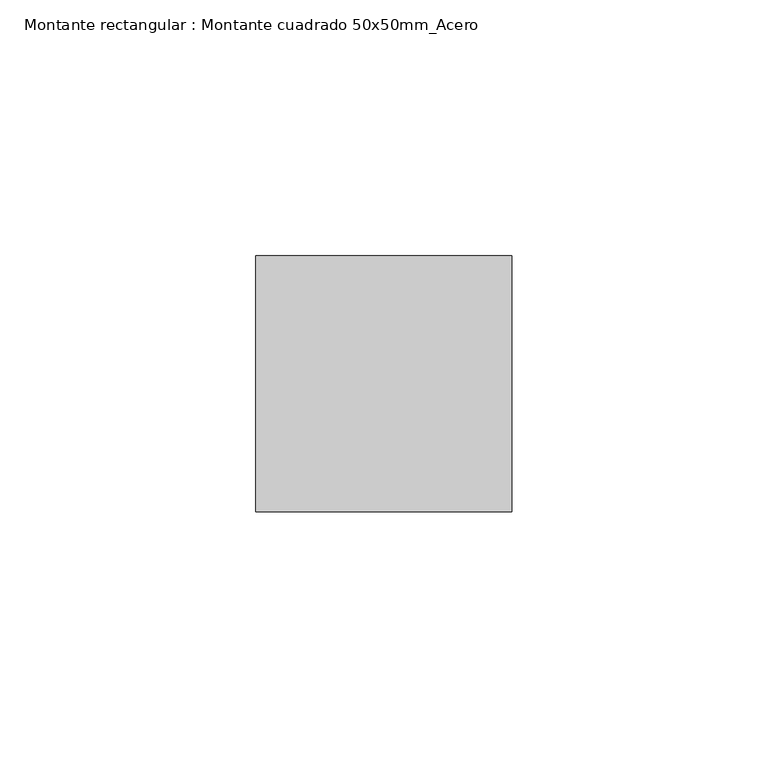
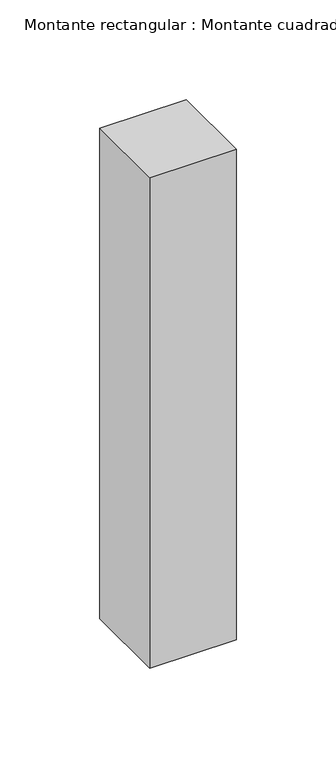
"""IFC4 building model written with IfcOpenShell, lengths in millimetres: member geometry, Montante rectangular : Montante cuadrado 50x50mm_Acero."""

import ifcopenshell
import ifcopenshell.guid

model = None  # the IFC model being written
_history = None  # IfcOwnerHistory: only IFC2X3 demands one
_inside = {}  # id of a spatial element -> (the spatial element, [elements in it])
_under = {}  # id of a project, library or spatial element -> (it, [spatial elements below it])
_declared = {}  # id of a project -> (the project, [libraries it declares])
_typed = {}  # id of a type object -> (the type object, [elements of that type])
_made_of = {}  # id of a material, layer set ... -> (it, [elements and type objects made of it])


def new_model(schema):
    """Start an empty IFC model of exactly this schema.

    Asked for "IFC4X3", IfcOpenShell would pick the latest addendum, in which some entities
    have other attributes; the version numbers below select the first issue.
    IFC2X3 requires an IfcOwnerHistory on every rooted entity: one is made here for all.
    """
    global model, _history
    if schema == "IFC4X3":
        model = ifcopenshell.file(schema_version=(4, 3, 0, 0))
    else:
        model = ifcopenshell.file(schema=schema)
    _inside.clear()
    _under.clear()
    _declared.clear()
    _typed.clear()
    _made_of.clear()
    _history = None
    if model.schema == "IFC2X3":
        org = make("IfcOrganization", Name="unknown")
        user = make(
            "IfcPersonAndOrganization",
            ThePerson=make("IfcPerson", FamilyName="unknown"),
            TheOrganization=org,
        )
        app = make(
            "IfcApplication",
            ApplicationDeveloper=org,
            Version="unknown",
            ApplicationFullName="unknown",
            ApplicationIdentifier="unknown",
        )
        _history = make(
            "IfcOwnerHistory",
            OwningUser=user,
            OwningApplication=app,
            ChangeAction="ADDED",
            CreationDate=0,
        )
    return model


def make(cls, **values):
    """One entity of the class cls with the attributes given. An attribute that is None is left unset."""
    return model.create_entity(
        cls, **{name: value for name, value in values.items() if value is not None}
    )


def rooted(cls, **values):
    """An entity with a GlobalId (a new one), such as an element, a storey or a relation."""
    return make(cls, GlobalId=ifcopenshell.guid.new(), OwnerHistory=_history, **values)


def si_unit(unit_type, name, prefix=None):
    """IfcSIUnit, for example si_unit("LENGTHUNIT", "METRE", prefix="MILLI")."""
    return make("IfcSIUnit", UnitType=unit_type, Prefix=prefix, Name=name)


def assignment(units):
    """IfcUnitAssignment: the units of a project."""
    return None if units is None else make("IfcUnitAssignment", Units=units)


def point(xyz):
    """IfcCartesianPoint."""
    return None if xyz is None else make("IfcCartesianPoint", Coordinates=xyz)


def direction(xyz):
    """IfcDirection."""
    return None if xyz is None else make("IfcDirection", DirectionRatios=xyz)


def frame(location, z_axis=None, x_axis=None):
    """IfcAxis2Placement3D, a coordinate frame: its origin and axes. An axis left out is left unset."""
    return make(
        "IfcAxis2Placement3D",
        Location=point(location),
        Axis=direction(z_axis),
        RefDirection=direction(x_axis),
    )


def origin():
    """The frame at (0, 0, 0) with its axes left unset."""
    return frame((0.0, 0.0, 0.0))


def place(relative_to, where):
    """IfcLocalPlacement: puts the frame where relative to a parent placement (None: the world)."""
    return make(
        "IfcLocalPlacement", PlacementRelTo=relative_to, RelativePlacement=where
    )


def context(
    kind, dimensions, precision=None, world=None, true_north=None, identifier=None
):
    """IfcGeometricRepresentationContext, for example the 3D "Model" context."""
    return make(
        "IfcGeometricRepresentationContext",
        ContextIdentifier=identifier,
        ContextType=kind,
        CoordinateSpaceDimension=dimensions,
        Precision=precision,
        WorldCoordinateSystem=world,
        TrueNorth=true_north,
    )


def project(units=None, contexts=None):
    """IfcProject with its units and contexts."""
    return rooted(
        "IfcProject",
        Name="project",
        RepresentationContexts=contexts,
        UnitsInContext=assignment(units),
    )


def spatial(cls, under=None, at=None, **own):
    """A site, building, storey or space (cls), placed at a placement, below another one or the project."""
    s = rooted(cls, ObjectPlacement=at, **own)
    if under is not None:
        _under.setdefault(under.id(), (under, []))[1].append(s)
    return s


def polyline(points):
    """IfcPolyline through the points."""
    return make("IfcPolyline", Points=[point(p) for p in points])


def outline(outer, holes=None, kind="AREA"):
    """IfcArbitraryClosedProfileDef: a profile drawn as a closed curve; with holes, ...WithVoids."""
    if holes is None:
        return make("IfcArbitraryClosedProfileDef", ProfileType=kind, OuterCurve=outer)
    return make(
        "IfcArbitraryProfileDefWithVoids",
        ProfileType=kind,
        OuterCurve=outer,
        InnerCurves=holes,
    )


def extrude(swept, where, along, depth):
    """IfcExtrudedAreaSolid: the profile swept, set in the frame where, extruded along a direction by depth."""
    return make(
        "IfcExtrudedAreaSolid",
        SweptArea=swept,
        Position=where,
        ExtrudedDirection=direction(along),
        Depth=depth,
    )


def shape(context_of_items, identifier, shape_type, items):
    """IfcShapeRepresentation: the items that make up one representation, for example the "Body"."""
    return make(
        "IfcShapeRepresentation",
        ContextOfItems=context_of_items,
        RepresentationIdentifier=identifier,
        RepresentationType=shape_type,
        Items=items,
    )


def source(mapping_origin, context_of_items, identifier, shape_type, items):
    """IfcRepresentationMap: a shape defined once, which mapped items show again and again."""
    return make(
        "IfcRepresentationMap",
        MappingOrigin=mapping_origin,
        MappedRepresentation=shape(context_of_items, identifier, shape_type, items),
    )


def transform(
    local_origin,
    x_axis=None,
    y_axis=None,
    z_axis=None,
    scale=None,
    scale2=None,
    scale3=None,
    uniform=True,
):
    """IfcCartesianTransformationOperator3D, or its non-uniform kind. x_axis, y_axis, z_axis: its Axis1, 2, 3."""
    if uniform:
        return make(
            "IfcCartesianTransformationOperator3D",
            Axis1=direction(x_axis),
            Axis2=direction(y_axis),
            LocalOrigin=point(local_origin),
            Scale=scale,
            Axis3=direction(z_axis),
        )
    return make(
        "IfcCartesianTransformationOperator3DnonUniform",
        Axis1=direction(x_axis),
        Axis2=direction(y_axis),
        LocalOrigin=point(local_origin),
        Scale=scale,
        Axis3=direction(z_axis),
        Scale2=scale2,
        Scale3=scale3,
    )


def mapped(mapping_source, mapping_target):
    """IfcMappedItem: shows the shape of a source again, moved by a transform."""
    return make(
        "IfcMappedItem", MappingSource=mapping_source, MappingTarget=mapping_target
    )


def made_of(thing, what):
    """Note that an element or type object is made of a material, layer set ...; save() writes the relation."""
    if what is not None:
        _made_of.setdefault(what.id(), (what, []))[1].append(thing)
    return thing


def element(
    cls,
    number,
    at=None,
    inside=None,
    cuts=None,
    type_object=None,
    material=None,
    context=None,
    identifier="Body",
    shape_type=None,
    held_by="IfcProductDefinitionShape",
    body=None,
    shapes=None,
    **own,
):
    """One element of the class cls, such as IfcWall. Its Tag is "e" and its number.

    at: its placement. inside: the storey or other place that contains it. cuts: it is an
    opening in that element (IfcRelVoidsElement). A single representation is given by context,
    identifier, shape_type and body (its items); several are given by shapes. held_by: the class
    of the entity that holds the representations. save() writes the other relations.
    """
    e = rooted(cls, Tag="e%d" % number, ObjectPlacement=at, **own)
    if body is not None:
        shapes = [shape(context, identifier, shape_type, body)]
    if shapes is not None:
        e.Representation = make(held_by, Representations=shapes)
    if inside is not None:
        _inside.setdefault(inside.id(), (inside, []))[1].append(e)
    if cuts is not None:
        rooted(
            "IfcRelVoidsElement", RelatingBuildingElement=cuts, RelatedOpeningElement=e
        )
    if type_object is not None:
        _typed.setdefault(type_object.id(), (type_object, []))[1].append(e)
    return made_of(e, material)


def aggregate(whole, parts):
    """IfcRelAggregates: a whole, such as a stair, and the parts it consists of."""
    return rooted("IfcRelAggregates", RelatingObject=whole, RelatedObjects=parts)


def save(model, path):
    """Write the relations noted so far, then the file.

    IfcRelAggregates (storeys below a building ...), IfcRelContainedInSpatialStructure (elements
    in a storey), IfcRelDefinesByType, IfcRelAssociatesMaterial and IfcRelDeclares: one each for
    every whole, place, type object, material and project.
    """
    for whole, parts in _under.values():
        aggregate(whole, parts)
    for where, things in _inside.values():
        rooted(
            "IfcRelContainedInSpatialStructure",
            RelatedElements=things,
            RelatingStructure=where,
        )
    for kind, things in _typed.values():
        rooted("IfcRelDefinesByType", RelatedObjects=things, RelatingType=kind)
    for what, things in _made_of.values():
        rooted("IfcRelAssociatesMaterial", RelatedObjects=things, RelatingMaterial=what)
    for by, libraries in _declared.values():
        rooted("IfcRelDeclares", RelatingContext=by, RelatedDefinitions=libraries)
    model.write(path)


def montante_rectangular_montante_cuadrado_50x50mm_acero_e6be7436(model_context):
    return source(origin(), model_context, "Body", "SweptSolid", [
        extrude(outline(polyline([(0.0, 0.0), (-50.0, 0.0), (-50.0, 50.0), (0.0, 50.0), (0.0, 0.0)])), frame((0.0, 0.0, -300.0), z_axis=(0.0, 0.0, 1.0), x_axis=(1.0, 0.0, 0.0)), (0.0, 0.0, 1.0), 300.0),
    ])


if __name__ == "__main__":
    model = new_model("IFC4")
    model_context = context("Model", 3, world=origin())
    ifc_project = project(units=[si_unit("LENGTHUNIT", "METRE", prefix="MILLI")], contexts=[model_context])
    site = spatial("IfcSite", under=ifc_project)
    building = spatial("IfcBuilding", under=site)
    placement = place(None, origin())
    montante_rectangular_montante_cuadrado_50x50mm_acero_shape = montante_rectangular_montante_cuadrado_50x50mm_acero_e6be7436(model_context)
    element("IfcMember", 1, ObjectType="Montante rectangular : Montante cuadrado 50x50mm_Acero", at=placement, inside=building, context=model_context, shape_type="MappedRepresentation", body=[
        mapped(montante_rectangular_montante_cuadrado_50x50mm_acero_shape, transform((0.0, 0.0, 0.0), x_axis=(1.0, 0.0, 0.0), y_axis=(0.0, 1.0, 0.0), z_axis=(0.0, 0.0, 1.0))),
    ])
    save(model, "model.ifc")
